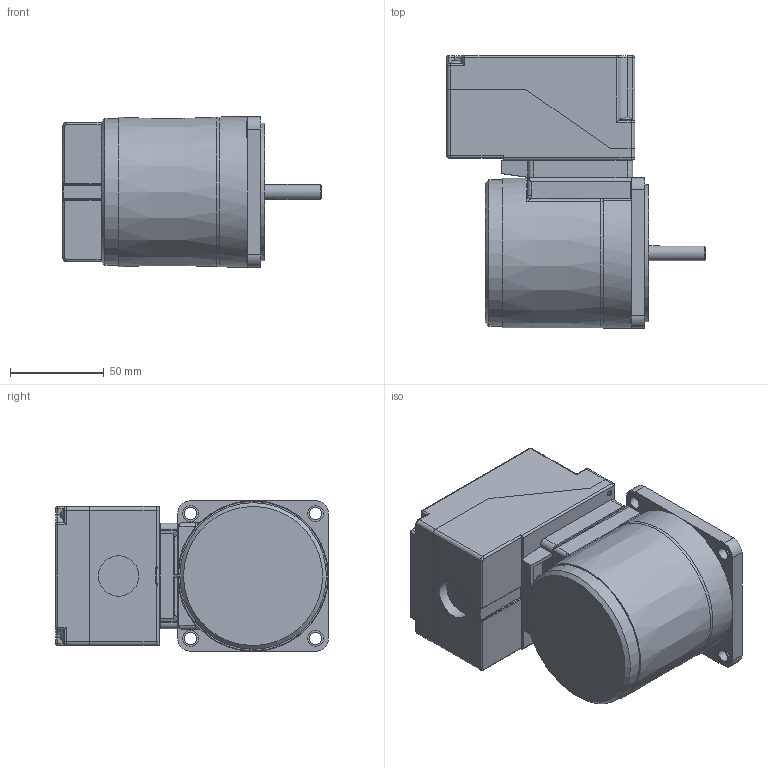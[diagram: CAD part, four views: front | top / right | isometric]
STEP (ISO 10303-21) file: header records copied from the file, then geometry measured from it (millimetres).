
FILE_DESCRIPTION(/* description */ (''),/* implementation_level */ '2;1');
FILE_NAME(/* name */ 'E:\도면작업\2016\0704) 미주향 SG 도면\3D MOTOR\TERMINAL BOX TYPE\INDUCTION TERMINAL BOX\SG8I25K_-T2.stp',/* time_stamp */ '2017-01-23T18:13:57+09:00',/* author */ ('jy-jung'),/* organization */ (''),/* preprocessor_version */ 'ST-DEVELOPER v15.6',/* originating_system */ 'Autodesk Inventor 2015',/* authorisation */ '');
FILE_SCHEMA (('AUTOMOTIVE_DESIGN { 1 0 10303 214 3 1 1 }'));
Length unit declared in the file: millimetre
Products named in the file (1): 부품4
Bounding box: 137.4 x 145 x 80 mm (x, y, z)
Volume: 568345.5 mm3; surface area: 118674.3 mm2
Topology: 1 solids, 5 shells, 848 faces, 2242 edges, 1431 vertices
Faces by surface type: plane 443, cylinder 295, bspline 48, torus 30, cone 20, sphere 12
Full cylindrical faces by diameter (mm): 2.5 x4, 3 x4, 3.2 x3, 3.4 x1, 4.2 x1, 4.5 x8, 5.5 x8, 6.5 x4, 6.9 x4, 8 x1, 8.5 x4, 21.5 x1, 34 x1, 73 x1, 78 x1
Entity records: 28157 total; most frequent: CARTESIAN_POINT 6577, DIRECTION 4297, ORIENTED_EDGE 4256, EDGE_CURVE 2128, AXIS2_PLACEMENT_3D 1515, VERTEX_POINT 1417, LINE 1267, VECTOR 1267
